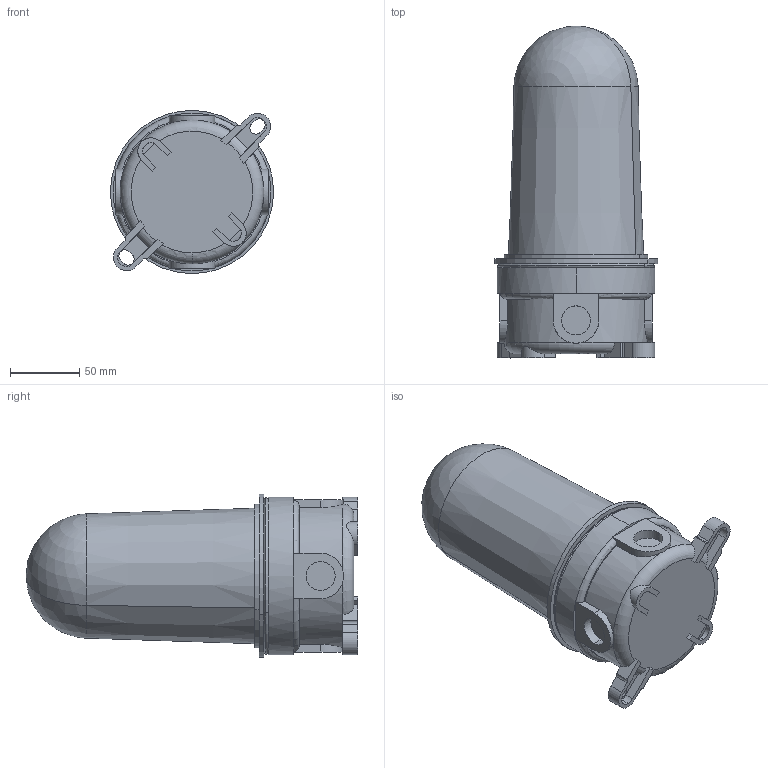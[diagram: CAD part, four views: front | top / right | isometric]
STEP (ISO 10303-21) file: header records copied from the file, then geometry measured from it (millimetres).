
FILE_DESCRIPTION (( 'STEP AP214' ), '1' );
FILE_NAME ('POL10_32.STEP', '2010-05-11T13:23:56', ( ' ' ), ( ' ' ), 'SwSTEP 2.0', 'SolidWorks 2009', '' );
FILE_SCHEMA (( 'AUTOMOTIVE_DESIGN' ));
Length unit declared in the file: millimetre
Products named in the file (1): POL10_32
Bounding box: 117.94 x 240 x 117.94 mm (x, y, z)
Surface area: 97800.8 mm2 (no closed solid volume)
Topology: 0 solids, 3 shells, 141 faces, 372 edges, 241 vertices
Faces by surface type: plane 69, cylinder 53, torus 15, cone 2, sphere 2
Entity records: 6585 total; most frequent: CARTESIAN_POINT 1434, DIRECTION 779, ORIENTED_EDGE 740, EDGE_CURVE 372, AXIS2_PLACEMENT_3D 300, VERTEX_POINT 241, VECTOR 179, LINE 179
